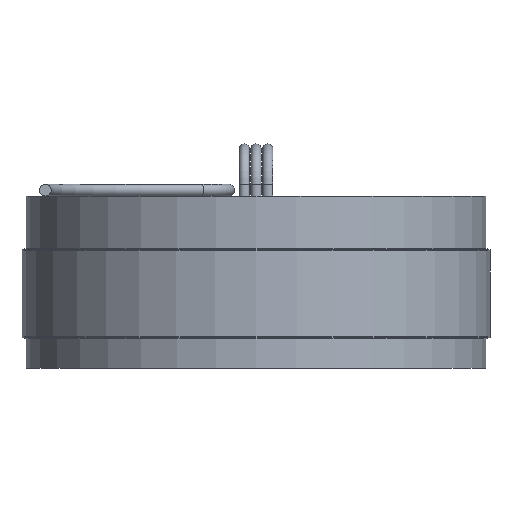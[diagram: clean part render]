
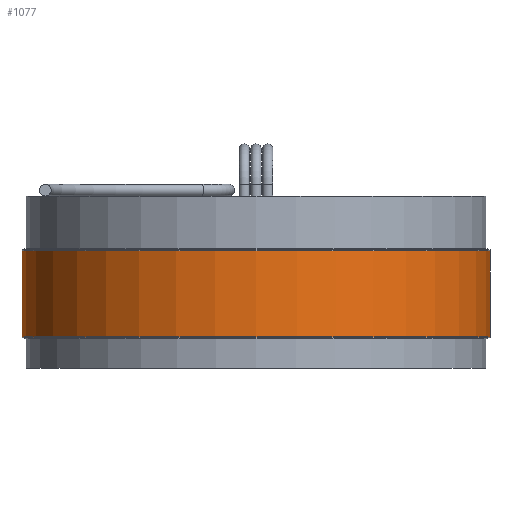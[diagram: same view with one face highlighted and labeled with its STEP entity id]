
A CAD part, front view. The second image highlights one B-rep face of the part: STEP entity #1077.
In plain terms, the highlighted cylindrical face has radius 50.8 mm (diameter 101.6 mm), a full revolution.
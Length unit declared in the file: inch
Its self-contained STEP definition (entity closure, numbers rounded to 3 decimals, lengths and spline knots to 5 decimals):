
#4 = FACE_OUTER_BOUND ( 'NONE', #1198, .T. ) ;
#55 = CIRCLE ( 'NONE', #1131, 2. ) ;
#136 = CIRCLE ( 'NONE', #1290, 2. ) ;
#165 = CARTESIAN_POINT ( 'NONE',  ( 0., 0., 0.36713 ) ) ;
#334 = EDGE_CURVE ( 'NONE', #391, #391, #136, .T. ) ;
#341 = EDGE_LOOP ( 'NONE', ( #883 ) ) ;
#378 = DIRECTION ( 'NONE',  ( 1., 0., 0. ) ) ;
#391 = VERTEX_POINT ( 'NONE', #539 ) ;
#410 = ORIENTED_EDGE ( 'NONE', *, *, #334, .T. ) ;
#488 = DIRECTION ( 'NONE',  ( 0., 0., 1. ) ) ;
#539 = CARTESIAN_POINT ( 'NONE',  ( 2., 0., -0.36713 ) ) ;
#583 = DIRECTION ( 'NONE',  ( 0., 0., 1. ) ) ;
#599 = DIRECTION ( 'NONE',  ( 1., 0., 0. ) ) ;
#603 = EDGE_CURVE ( 'NONE', #1050, #1050, #55, .T. ) ;
#883 = ORIENTED_EDGE ( 'NONE', *, *, #603, .F. ) ;
#888 = CYLINDRICAL_SURFACE ( 'NONE', #1208, 2. ) ;
#898 = DIRECTION ( 'NONE',  ( 1., 0., 0. ) ) ;
#1050 = VERTEX_POINT ( 'NONE', #1310 ) ;
#1077 = ADVANCED_FACE ( 'NONE', ( #1345, #4 ), #888, .T. ) ;
#1131 = AXIS2_PLACEMENT_3D ( 'NONE', #165, #488, #599 ) ;
#1132 = CARTESIAN_POINT ( 'NONE',  ( 0., 0., -0.385 ) ) ;
#1198 = EDGE_LOOP ( 'NONE', ( #410 ) ) ;
#1208 = AXIS2_PLACEMENT_3D ( 'NONE', #1132, #583, #378 ) ;
#1252 = DIRECTION ( 'NONE',  ( 0., 0., 1. ) ) ;
#1290 = AXIS2_PLACEMENT_3D ( 'NONE', #1353, #1252, #898 ) ;
#1310 = CARTESIAN_POINT ( 'NONE',  ( 2., 0., 0.36713 ) ) ;
#1345 = FACE_OUTER_BOUND ( 'NONE', #341, .T. ) ;
#1353 = CARTESIAN_POINT ( 'NONE',  ( 0., 0., -0.36713 ) ) ;
